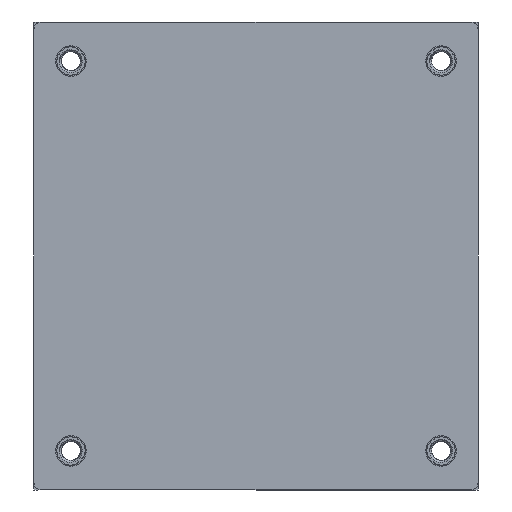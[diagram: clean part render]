
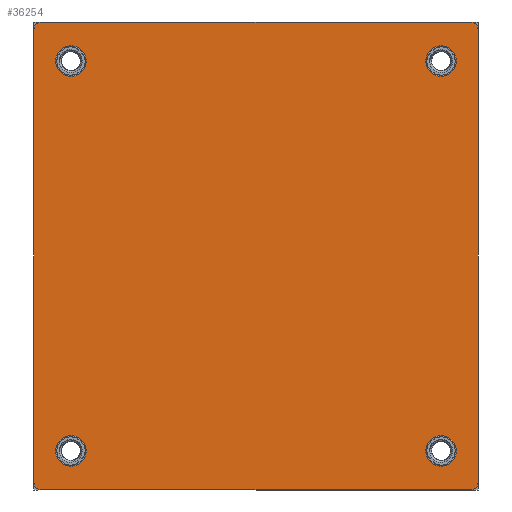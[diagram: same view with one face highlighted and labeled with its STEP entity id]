
A CAD part, front view. The second image highlights one B-rep face of the part: STEP entity #36254.
In plain terms, the highlighted planar face has unit normal (0, -1, 0).
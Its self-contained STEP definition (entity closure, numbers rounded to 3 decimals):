
#8 = FACE_BOUND ( 'NONE', #39394, .T. ) ;
#592 = DIRECTION ( 'NONE',  ( 0., 0., -1. ) ) ;
#1493 = EDGE_CURVE ( 'NONE', #19207, #6462, #23963, .T. ) ;
#1593 = AXIS2_PLACEMENT_3D ( 'NONE', #40615, #26997, #37200 ) ;
#1691 = DIRECTION ( 'NONE',  ( 0., 1., 0. ) ) ;
#1749 = VERTEX_POINT ( 'NONE', #12387 ) ;
#2457 = EDGE_CURVE ( 'NONE', #22973, #22973, #19557, .T. ) ;
#2956 = ORIENTED_EDGE ( 'NONE', *, *, #17685, .T. ) ;
#2975 = CIRCLE ( 'NONE', #41340, 2. ) ;
#3443 = ORIENTED_EDGE ( 'NONE', *, *, #38144, .F. ) ;
#3668 = AXIS2_PLACEMENT_3D ( 'NONE', #7642, #7860, #17608 ) ;
#3715 = CARTESIAN_POINT ( 'NONE',  ( 28.95, -1.5, -29.5 ) ) ;
#3964 = LINE ( 'NONE', #28187, #27607 ) ;
#4727 = ORIENTED_EDGE ( 'NONE', *, *, #36151, .F. ) ;
#4936 = VERTEX_POINT ( 'NONE', #31648 ) ;
#5066 = AXIS2_PLACEMENT_3D ( 'NONE', #30869, #24517, #30430 ) ;
#5172 = VECTOR ( 'NONE', #592, 1000. ) ;
#6166 = FACE_BOUND ( 'NONE', #41311, .T. ) ;
#6188 = CARTESIAN_POINT ( 'NONE',  ( -28.95, -1.5, 29.5 ) ) ;
#6381 = FACE_BOUND ( 'NONE', #24745, .T. ) ;
#6437 = ORIENTED_EDGE ( 'NONE', *, *, #10607, .T. ) ;
#6462 = VERTEX_POINT ( 'NONE', #3715 ) ;
#6575 = DIRECTION ( 'NONE',  ( 0., 0., 1. ) ) ;
#6719 = VERTEX_POINT ( 'NONE', #19082 ) ;
#7642 = CARTESIAN_POINT ( 'NONE',  ( -27.95, -1.5, 29.5 ) ) ;
#7754 = ORIENTED_EDGE ( 'NONE', *, *, #38805, .T. ) ;
#7860 = DIRECTION ( 'NONE',  ( 0., -1., 0. ) ) ;
#9604 = CARTESIAN_POINT ( 'NONE',  ( -24.13, -1.5, -23.4 ) ) ;
#9877 = EDGE_CURVE ( 'NONE', #19515, #6719, #26332, .T. ) ;
#9986 = EDGE_CURVE ( 'NONE', #4936, #6719, #29166, .T. ) ;
#10451 = FACE_BOUND ( 'NONE', #23471, .T. ) ;
#10607 = EDGE_CURVE ( 'NONE', #30205, #30205, #24181, .T. ) ;
#11296 = CARTESIAN_POINT ( 'NONE',  ( -27.95, -1.5, 30.5 ) ) ;
#11560 = CARTESIAN_POINT ( 'NONE',  ( -28.95, -1.5, -29.5 ) ) ;
#11952 = DIRECTION ( 'NONE',  ( -1., 0., 0. ) ) ;
#12125 = ORIENTED_EDGE ( 'NONE', *, *, #9877, .T. ) ;
#12387 = CARTESIAN_POINT ( 'NONE',  ( 27.95, -1.5, 30.5 ) ) ;
#12555 = CARTESIAN_POINT ( 'NONE',  ( -24.13, -1.5, 27.4 ) ) ;
#12618 = AXIS2_PLACEMENT_3D ( 'NONE', #29333, #1691, #15960 ) ;
#13165 = CARTESIAN_POINT ( 'NONE',  ( 27.95, -1.5, -29.5 ) ) ;
#13458 = EDGE_LOOP ( 'NONE', ( #4727, #12125, #15372, #2956, #23150, #44728, #3443, #41378 ) ) ;
#13619 = DIRECTION ( 'NONE',  ( 0., 1., 0. ) ) ;
#14897 = DIRECTION ( 'NONE',  ( 0., 0., 1. ) ) ;
#15314 = AXIS2_PLACEMENT_3D ( 'NONE', #44458, #13619, #41059 ) ;
#15372 = ORIENTED_EDGE ( 'NONE', *, *, #9986, .F. ) ;
#15960 = DIRECTION ( 'NONE',  ( 0., 0., 1. ) ) ;
#16035 = VECTOR ( 'NONE', #29738, 1000. ) ;
#16734 = VERTEX_POINT ( 'NONE', #11296 ) ;
#17047 = CARTESIAN_POINT ( 'NONE',  ( 24.13, -1.5, -23.4 ) ) ;
#17490 = CIRCLE ( 'NONE', #1593, 2. ) ;
#17608 = DIRECTION ( 'NONE',  ( 0., 0., 1. ) ) ;
#17685 = EDGE_CURVE ( 'NONE', #4936, #6462, #25388, .T. ) ;
#17804 = EDGE_CURVE ( 'NONE', #16734, #32041, #23221, .T. ) ;
#17830 = CARTESIAN_POINT ( 'NONE',  ( 28.95, -1.5, -30.5 ) ) ;
#18292 = ORIENTED_EDGE ( 'NONE', *, *, #2457, .T. ) ;
#18295 = CARTESIAN_POINT ( 'NONE',  ( -27.95, -1.5, -29.5 ) ) ;
#19082 = CARTESIAN_POINT ( 'NONE',  ( -27.95, -1.5, -30.5 ) ) ;
#19207 = VERTEX_POINT ( 'NONE', #30830 ) ;
#19515 = VERTEX_POINT ( 'NONE', #11560 ) ;
#19557 = CIRCLE ( 'NONE', #5066, 2. ) ;
#19830 = AXIS2_PLACEMENT_3D ( 'NONE', #18295, #24630, #14897 ) ;
#20427 = FACE_OUTER_BOUND ( 'NONE', #13458, .T. ) ;
#22601 = CARTESIAN_POINT ( 'NONE',  ( -28.95, -1.5, -30.5 ) ) ;
#22973 = VERTEX_POINT ( 'NONE', #12555 ) ;
#23150 = ORIENTED_EDGE ( 'NONE', *, *, #1493, .F. ) ;
#23221 = CIRCLE ( 'NONE', #3668, 1. ) ;
#23471 = EDGE_LOOP ( 'NONE', ( #7754 ) ) ;
#23821 = PLANE ( 'NONE',  #15314 ) ;
#23963 = LINE ( 'NONE', #17830, #5172 ) ;
#24181 = CIRCLE ( 'NONE', #12618, 2. ) ;
#24517 = DIRECTION ( 'NONE',  ( 0., 1., 0. ) ) ;
#24630 = DIRECTION ( 'NONE',  ( 0., -1., 0. ) ) ;
#24745 = EDGE_LOOP ( 'NONE', ( #6437 ) ) ;
#24811 = DIRECTION ( 'NONE',  ( 1., 0., 0. ) ) ;
#25388 = CIRCLE ( 'NONE', #36252, 1. ) ;
#26251 = EDGE_CURVE ( 'NONE', #19207, #1749, #39297, .T. ) ;
#26332 = CIRCLE ( 'NONE', #19830, 1. ) ;
#26980 = DIRECTION ( 'NONE',  ( 0., -1., 0. ) ) ;
#26997 = DIRECTION ( 'NONE',  ( 0., 1., 0. ) ) ;
#27607 = VECTOR ( 'NONE', #24811, 1000. ) ;
#28187 = CARTESIAN_POINT ( 'NONE',  ( -28.95, -1.5, 30.5 ) ) ;
#29166 = LINE ( 'NONE', #22601, #37195 ) ;
#29333 = CARTESIAN_POINT ( 'NONE',  ( 24.13, -1.5, 25.4 ) ) ;
#29738 = DIRECTION ( 'NONE',  ( 0., 0., 1. ) ) ;
#30205 = VERTEX_POINT ( 'NONE', #40205 ) ;
#30369 = DIRECTION ( 'NONE',  ( 0., -1., 0. ) ) ;
#30424 = VERTEX_POINT ( 'NONE', #17047 ) ;
#30430 = DIRECTION ( 'NONE',  ( 0., 0., 1. ) ) ;
#30830 = CARTESIAN_POINT ( 'NONE',  ( 28.95, -1.5, 29.5 ) ) ;
#30869 = CARTESIAN_POINT ( 'NONE',  ( -24.13, -1.5, 25.4 ) ) ;
#31648 = CARTESIAN_POINT ( 'NONE',  ( 27.95, -1.5, -30.5 ) ) ;
#32041 = VERTEX_POINT ( 'NONE', #6188 ) ;
#32842 = CARTESIAN_POINT ( 'NONE',  ( -24.13, -1.5, -25.4 ) ) ;
#36084 = CARTESIAN_POINT ( 'NONE',  ( -28.95, -1.5, -30.5 ) ) ;
#36151 = EDGE_CURVE ( 'NONE', #19515, #32041, #36974, .T. ) ;
#36252 = AXIS2_PLACEMENT_3D ( 'NONE', #13165, #26980, #40154 ) ;
#36254 = ADVANCED_FACE ( 'NONE', ( #10451, #6166, #6381, #8, #20427 ), #23821, .F. ) ;
#36405 = AXIS2_PLACEMENT_3D ( 'NONE', #36721, #30369, #6575 ) ;
#36677 = DIRECTION ( 'NONE',  ( 0., 0., 1. ) ) ;
#36721 = CARTESIAN_POINT ( 'NONE',  ( 27.95, -1.5, 29.5 ) ) ;
#36974 = LINE ( 'NONE', #36084, #16035 ) ;
#37195 = VECTOR ( 'NONE', #11952, 1000. ) ;
#37200 = DIRECTION ( 'NONE',  ( 0., 0., 1. ) ) ;
#37457 = EDGE_CURVE ( 'NONE', #37893, #37893, #2975, .T. ) ;
#37893 = VERTEX_POINT ( 'NONE', #9604 ) ;
#38144 = EDGE_CURVE ( 'NONE', #16734, #1749, #3964, .T. ) ;
#38805 = EDGE_CURVE ( 'NONE', #30424, #30424, #17490, .T. ) ;
#39297 = CIRCLE ( 'NONE', #36405, 1. ) ;
#39394 = EDGE_LOOP ( 'NONE', ( #18292 ) ) ;
#39875 = DIRECTION ( 'NONE',  ( 0., 1., 0. ) ) ;
#40154 = DIRECTION ( 'NONE',  ( 0., 0., 1. ) ) ;
#40205 = CARTESIAN_POINT ( 'NONE',  ( 24.13, -1.5, 27.4 ) ) ;
#40615 = CARTESIAN_POINT ( 'NONE',  ( 24.13, -1.5, -25.4 ) ) ;
#40933 = ORIENTED_EDGE ( 'NONE', *, *, #37457, .T. ) ;
#41059 = DIRECTION ( 'NONE',  ( 0., 0., 1. ) ) ;
#41311 = EDGE_LOOP ( 'NONE', ( #40933 ) ) ;
#41340 = AXIS2_PLACEMENT_3D ( 'NONE', #32842, #39875, #36677 ) ;
#41378 = ORIENTED_EDGE ( 'NONE', *, *, #17804, .T. ) ;
#44458 = CARTESIAN_POINT ( 'NONE',  ( -28.95, -1.5, 30.5 ) ) ;
#44728 = ORIENTED_EDGE ( 'NONE', *, *, #26251, .T. ) ;
